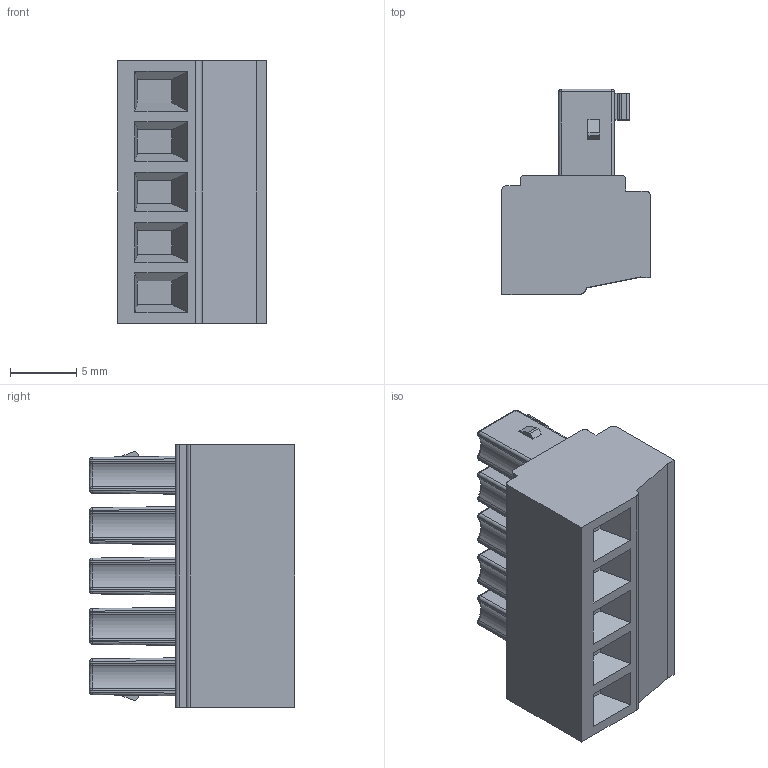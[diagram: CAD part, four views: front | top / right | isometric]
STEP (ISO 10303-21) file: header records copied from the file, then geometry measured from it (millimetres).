
FILE_DESCRIPTION (( 'STEP AP214' ), '1' );
FILE_NAME ('CUI_DEVICES_TBP02P1-381-05BE.step', '2019-10-22T03:06:29', ( '' ), ( '' ), 'SwSTEP 2.0', 'SolidWorks 2019', '' );
FILE_SCHEMA (( 'AUTOMOTIVE_DESIGN' ));
Length unit declared in the file: millimetre
Products named in the file (1): CUI_DEVICES_TBP02P1-381-05BE
Bounding box: 11.2 x 15.5 x 19.84 mm (x, y, z)
Volume: 2064.6 mm3; surface area: 1620.1 mm2
Topology: 1 solids, 1 shells, 325 faces, 810 edges, 494 vertices
Faces by surface type: plane 150, cylinder 125, bspline 40, cone 10
Entity records: 10927 total; most frequent: CARTESIAN_POINT 3483, ORIENTED_EDGE 1580, DIRECTION 1258, EDGE_CURVE 790, VERTEX_POINT 494, LINE 476, VECTOR 476, AXIS2_PLACEMENT_3D 391
